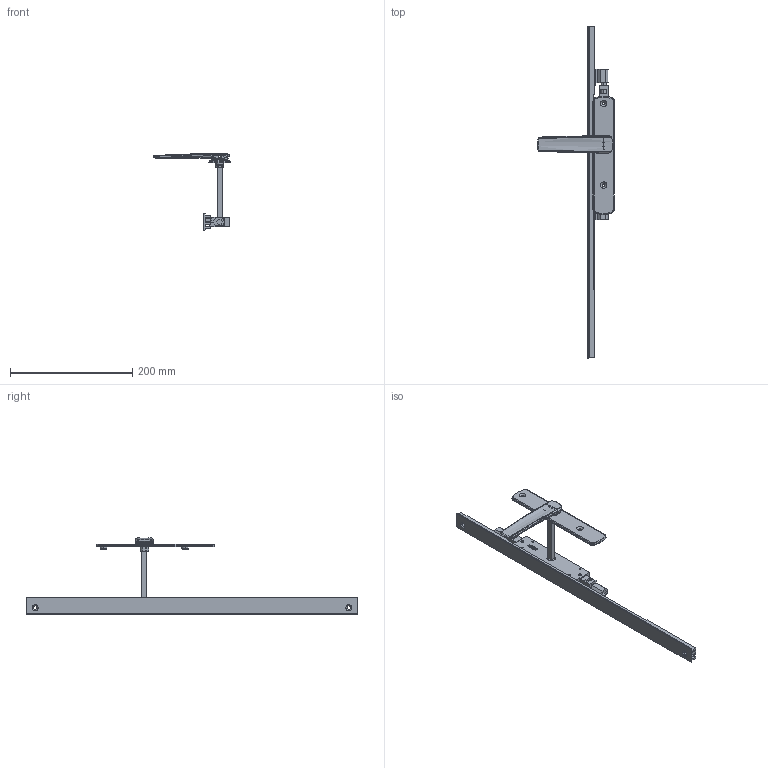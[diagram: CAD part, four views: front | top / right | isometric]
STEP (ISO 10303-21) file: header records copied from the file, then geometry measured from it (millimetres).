
FILE_DESCRIPTION (( 'STEP AP214' ), '1' );
FILE_NAME ('TPL-W-EU-607-U 06Nov2024.STEP', '2024-11-27T01:27:24', ( '' ), ( '' ), 'SwSTEP 2.0', 'SolidWorks 2023', '' );
FILE_SCHEMA (( 'AUTOMOTIVE_DESIGN' ));
Length unit declared in the file: millimetre
Products named in the file (18): Copy of LKC-584 Pivot body zinc - simplified^Copy of TPGen2 handle non-keyed short zinc - simplified_TPL-W-EU-107 04Nov2024; Copy of Copy of LKC-531 Lock twinpoint transmission rod wood system^TPL-W-EU-107 04Nov2024_Standard Range 2891.7mm; Copy of TPLGen2 lock body non-keyed assembly^TPL-W-EU-107 04Nov2024_Bolts retracted; Copy of COV-112-A Cover A suit TPLGen2 standard range^TPL-W-EU-107 04Nov2024_1335mm; LKC-531 Lock twinpoint transmission rod wood system^TPL-W-EU-107 04Nov2024_Standard Range 2891.7mm; TPLGen2 push rod - simplified^Copy of TPLGen2 lock body non-keyed assembly_TPL-W-EU-107 04Nov2024_Female thread M10; Copy of LKC-516 Escutcheon plate unkeyed 195mm long zinc - simplified^Copy of TPGen2 handle non-keyed short zinc - simplified_TPL-W-EU-107 04Nov2024; Bolt(2)^TPL-W-EU-107 04Nov2024; Copy of Adapter CnE - simplfied^TPL-W-EU-107 04Nov2024_26mm backset; Copy of TPLGen2 lock body non-keyed^Copy of TPLGen2 lock body non-keyed assembly_TPL-W-EU-107 04Nov2024; TPL-W-EU-607-U 06Nov2024; Copy of LKC-586 Spindle square 8mm with M4 hole^Copy of TPGen2 handle non-keyed short zinc - simplified_TPL-W-EU-107 04Nov2024_100mm; Copy of Adapter DnF - simplfied^TPL-W-EU-107 04Nov2024_26mm backset; Copy of COV-112-C Cover C TPLGen2 Lock body^TPL-W-EU-107 04Nov2024; COV-112-B Cover B suit TPLGen2 standard range^TPL-W-EU-107 04Nov2024_2870mm; Copy of LKC-505 Swing handle zinc - simplified^Copy of TPGen2 handle non-keyed short zinc - simplified_TPL-W-EU-107 04Nov2024; Copy of TPGen2 handle non-keyed short zinc - simplified^TPL-W-EU-107 04Nov2024_Left; Copy of LKC-585 Rotator body zinc^Copy of TPGen2 handle non-keyed short zinc - simplified_TPL-W-EU-107 04Nov2024
Assembly tree (15 placements, depth 3):
  Copy of COV-112-A Cover A suit TPLGen2 standard range^TPL-W-EU-107 04Nov2024_1335mm
  Bolt(2)^TPL-W-EU-107 04Nov2024
  TPL-W-EU-607-U 06Nov2024
    Copy of TPLGen2 lock body non-keyed assembly^TPL-W-EU-107 04Nov2024_Bolts retracted
      Copy of TPLGen2 lock body non-keyed^Copy of TPLGen2 lock body non-keyed assembly_TPL-W-EU-107 04Nov2024
      TPLGen2 push rod - simplified^Copy of TPLGen2 lock body non-keyed assembly_TPL-W-EU-107 04Nov2024_Female thread M10  x2
    Copy of TPGen2 handle non-keyed short zinc - simplified^TPL-W-EU-107 04Nov2024_Left
      Copy of LKC-516 Escutcheon plate unkeyed 195mm long zinc - simplified^Copy of TPGen2 handle non-keyed short zinc - simplified_TPL-W-EU-107 04Nov2024
      Copy of LKC-505 Swing handle zinc - simplified^Copy of TPGen2 handle non-keyed short zinc - simplified_TPL-W-EU-107 04Nov2024
      Copy of LKC-585 Rotator body zinc^Copy of TPGen2 handle non-keyed short zinc - simplified_TPL-W-EU-107 04Nov2024
      Copy of LKC-586 Spindle square 8mm with M4 hole^Copy of TPGen2 handle non-keyed short zinc - simplified_TPL-W-EU-107 04Nov2024_100mm
      Copy of LKC-584 Pivot body zinc - simplified^Copy of TPGen2 handle non-keyed short zinc - simplified_TPL-W-EU-107 04Nov2024
    Copy of COV-112-C Cover C TPLGen2 Lock body^TPL-W-EU-107 04Nov2024
    Copy of Copy of LKC-531 Lock twinpoint transmission rod wood system^TPL-W-EU-107 04Nov2024_Standard Range 2891.7mm
    LKC-531 Lock twinpoint transmission rod wood system^TPL-W-EU-107 04Nov2024_Standard Range 2891.7mm
    Copy of Adapter DnF - simplfied^TPL-W-EU-107 04Nov2024_26mm backset
    Copy of Adapter CnE - simplfied^TPL-W-EU-107 04Nov2024_26mm backset
  COV-112-B Cover B suit TPLGen2 standard range^TPL-W-EU-107 04Nov2024_2870mm
Bounding box: 125.62 x 544 x 125.06 mm (x, y, z)
Volume: 213478.9 mm3; surface area: 122209.6 mm2
Topology: 13 solids, 13 shells, 851 faces, 2100 edges, 1304 vertices
Faces by surface type: plane 304, bspline 241, cylinder 186, cone 66, torus 46, sphere 8
Entity records: 30683 total; most frequent: CARTESIAN_POINT 12559, ORIENTED_EDGE 4008, DIRECTION 3198, EDGE_CURVE 2004, VERTEX_POINT 1244, AXIS2_PLACEMENT_3D 1157, EDGE_LOOP 898, VECTOR 884
